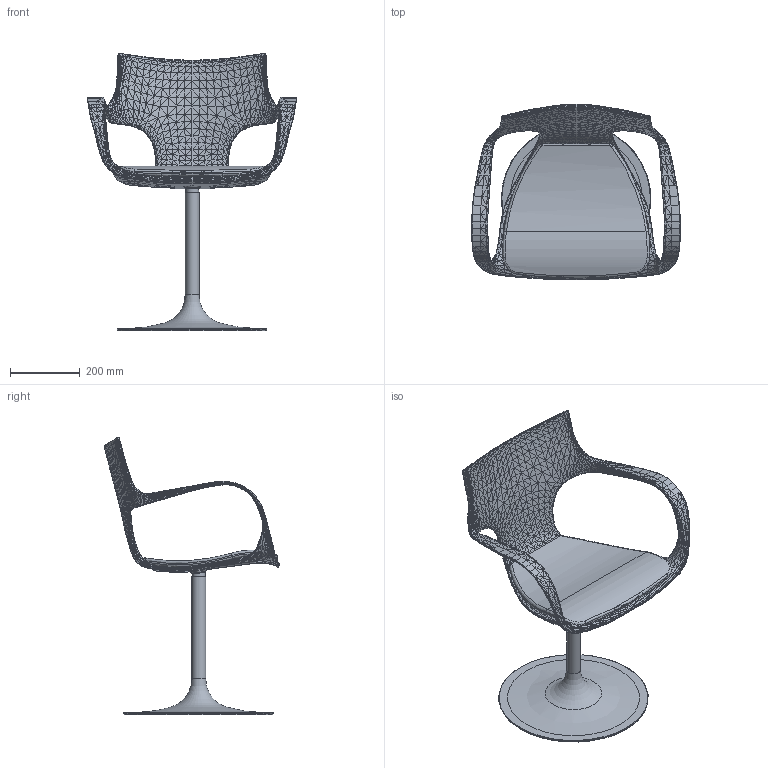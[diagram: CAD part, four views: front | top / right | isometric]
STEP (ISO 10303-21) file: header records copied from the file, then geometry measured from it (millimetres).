
FILE_DESCRIPTION((''),'2;1');
FILE_NAME('C:\AutodeskVault\AreaLavoro\Progetti\SoVeT Italia\4. Complementi_Accessorizes\Flûte Girevole\Web file\Flûte girevole Web\P2150.stp','2012-09-26T15:02:01',('Gianluca'),('So.Ve.T. s.r.l.'),'Autodesk Inventor 2013','Autodesk Inventor 2013','IL PROGETTO E'' DI ESCLUSIVA PROPRIETA'' DELLA SO.VE.T. srl. E'' VIETATA OGNI RIPRODUZIONE TOTALE O PARZIALE E QUALSIASI UTILIZZO NON AUTORIZZATO.');
FILE_SCHEMA(('AUTOMOTIVE_DESIGN { 1 0 10303 214 1 1 1 1 }'));
Length unit declared in the file: millimetre
Products named in the file (1): P2150 Contorno semplificato
Bounding box: 600.55 x 503.15 x 797.26 mm (x, y, z)
Volume: 8528220.6 mm3; surface area: 1206882.2 mm2
Topology: 1 solids, 1 shells, 7631 faces, 11857 edges, 4212 vertices
Faces by surface type: plane 7567, cylinder 34, bspline 26, torus 4
Full cylindrical faces by diameter (mm): 38 x1, 40 x1, 426.985 x1, 430 x1
Entity records: 161675 total; most frequent: DIRECTION 27144, CARTESIAN_POINT 25431, ORIENTED_EDGE 23686, EDGE_CURVE 11843, VECTOR 11438, LINE 11438, AXIS2_PLACEMENT_3D 7853, EDGE_LOOP 7644
